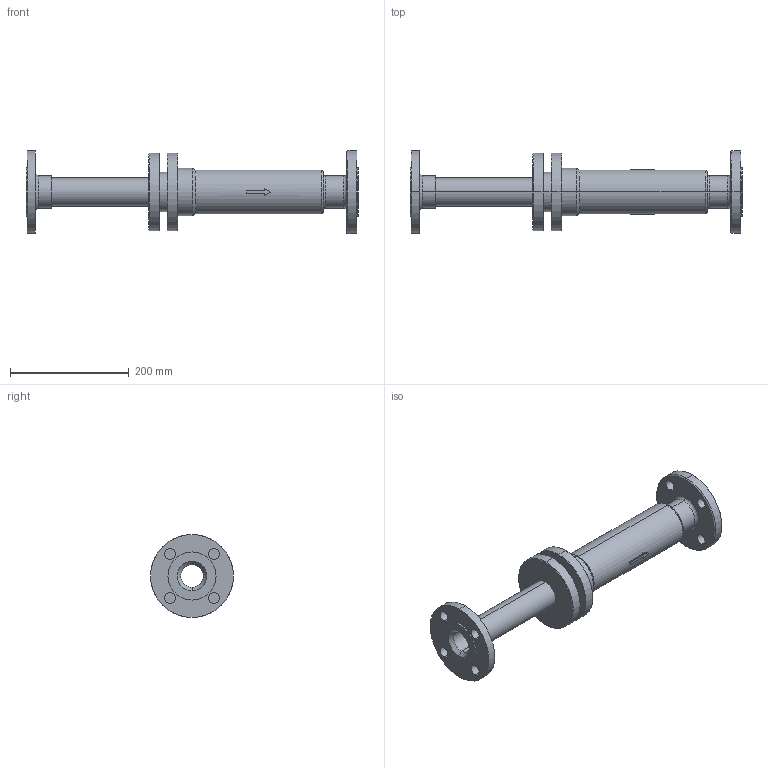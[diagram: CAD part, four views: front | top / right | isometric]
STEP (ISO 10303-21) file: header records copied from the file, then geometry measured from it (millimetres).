
FILE_DESCRIPTION( (''), '2;1');
FILE_NAME ('PC1027.9516.ES-10-200 40A_24318.stp','2025-07-30T14:25:51',(''),(''),'spGate 20.6.3 (****-****-****-****)','','');
FILE_SCHEMA (('AUTOMOTIVE_DESIGN'));
Length unit declared in the file: millimetre
Bounding box: 560 x 140 x 140 mm (x, y, z)
Volume: 1846217.9 mm3; surface area: 290803.4 mm2
Topology: 1 solids, 1 shells, 105 faces, 240 edges, 150 vertices
Faces by surface type: cylinder 44, bspline 32, plane 29
Entity records: 5339 total; most frequent: CARTESIAN_POINT 1127, ORIENTED_EDGE 480, DIRECTION 434, COLOUR_RGB 346, PRESENTATION_STYLE_ASSIGNMENT 346, STYLED_ITEM 346, EDGE_CURVE 240, DRAUGHTING_PRE_DEFINED_CURVE_FONT 240
